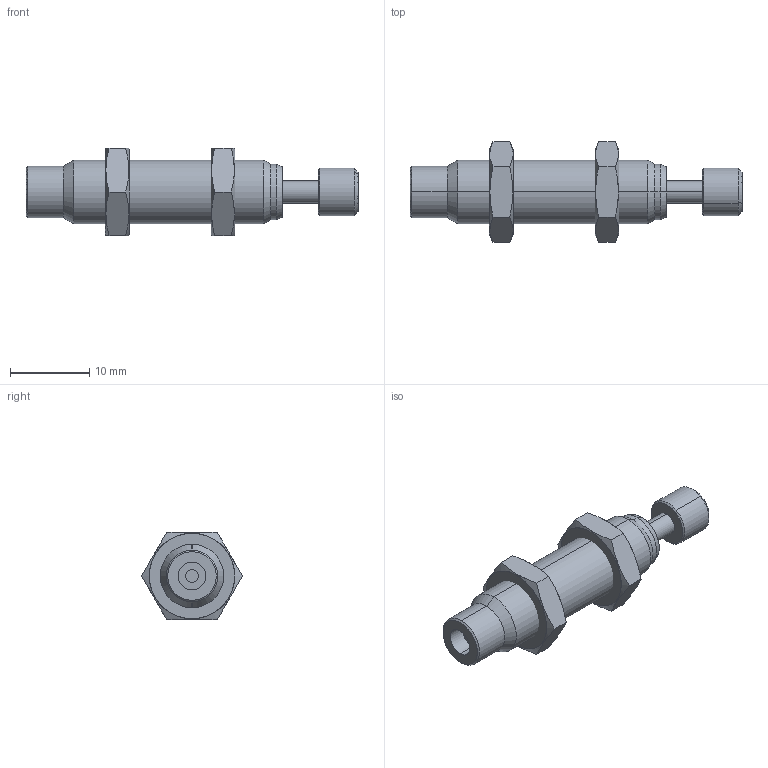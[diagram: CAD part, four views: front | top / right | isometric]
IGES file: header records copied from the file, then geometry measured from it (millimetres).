
Start section: SolidWorks IGES file using analytic representation for surfaces
Global section: file name: D:\IGS跡宒\AC0805.IGS,1; native system: 5HSolidWorks 2013; preprocessor: SolidWorks 2013; author: Administrator; date: 160406.111255; units: inch
Bounding box: 41.8 x 12.7 x 11 mm (x, y, z)
Surface area: 1667.6 mm2 (no closed solid volume)
Topology: 0 solids, 0 shells, 60 faces, 1000 edges, 1000 vertices
Faces by surface type: revolution 38, bspline 22
